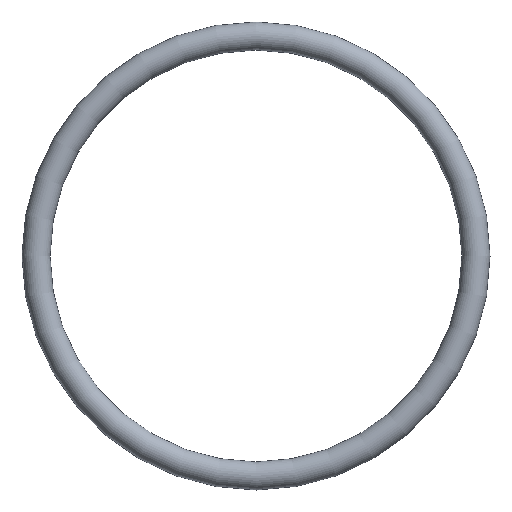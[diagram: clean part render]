
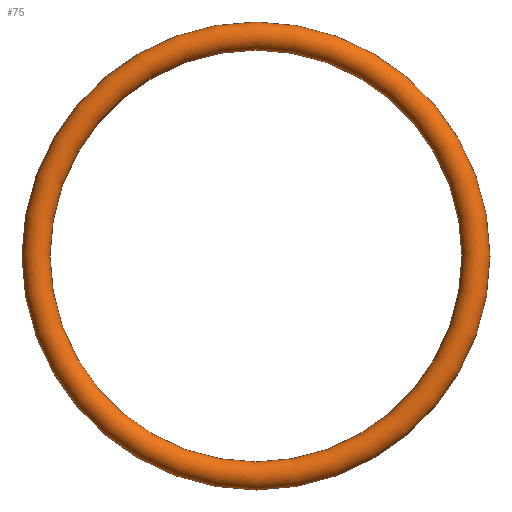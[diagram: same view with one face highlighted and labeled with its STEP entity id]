
A CAD part, front view. The second image highlights one B-rep face of the part: STEP entity #75.
In plain terms, the highlighted toroidal (fillet/blend) face has major radius 23.5 mm and minor radius 1.5 mm.
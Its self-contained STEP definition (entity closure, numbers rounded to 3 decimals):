
#75 = ADVANCED_FACE( '', ( #77 ), #78, .T. );
#77 = FACE_BOUND( '', #79, .T. );
#78 = TOROIDAL_SURFACE( '', #80, 23.5, 1.5 );
#79 = VERTEX_LOOP( '', #81 );
#80 = AXIS2_PLACEMENT_3D( '', #82, #83, #84 );
#81 = VERTEX_POINT( '', #85 );
#82 = CARTESIAN_POINT( '', ( 0., 0., 0. ) );
#83 = DIRECTION( '', ( 0., -1., 0. ) );
#84 = DIRECTION( '', ( 0., 0., -1. ) );
#85 = CARTESIAN_POINT( '', ( 0., 0., -25. ) );
